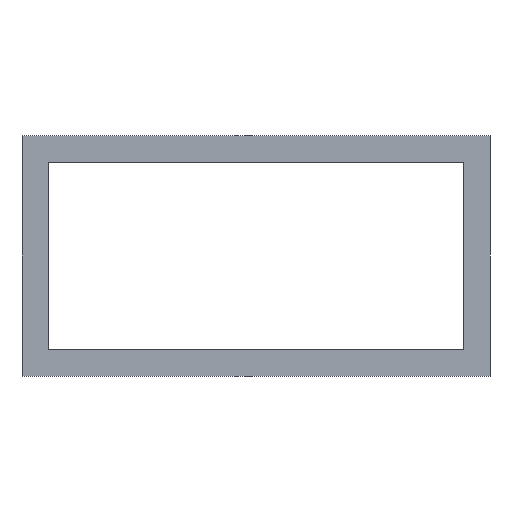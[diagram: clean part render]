
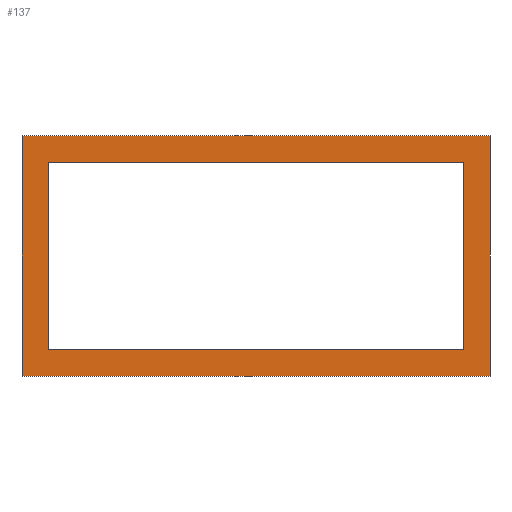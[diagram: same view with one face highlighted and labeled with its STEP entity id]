
A CAD part, front view. The second image highlights one B-rep face of the part: STEP entity #137.
In plain terms, the highlighted planar face has unit normal (0, -1, 0).
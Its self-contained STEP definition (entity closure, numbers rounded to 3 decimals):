
#21 = EDGE_CURVE('',#22,#24,#26,.T.);
#22 = VERTEX_POINT('',#23);
#23 = CARTESIAN_POINT('',(-53.9,-22.125,25.15));
#24 = VERTEX_POINT('',#25);
#25 = CARTESIAN_POINT('',(-53.9,-22.125,80.45));
#26 = SURFACE_CURVE('',#27,(#31,#43),.PCURVE_S1.);
#27 = LINE('',#28,#29);
#28 = CARTESIAN_POINT('',(-53.9,-22.125,25.15));
#29 = VECTOR('',#30,1.);
#30 = DIRECTION('',(0.,0.,1.));
#31 = PCURVE('',#32,#37);
#32 = PLANE('',#33);
#33 = AXIS2_PLACEMENT_3D('',#34,#35,#36);
#34 = CARTESIAN_POINT('',(-53.9,-22.125,25.15));
#35 = DIRECTION('',(1.,0.,0.));
#36 = DIRECTION('',(0.,0.,1.));
#37 = DEFINITIONAL_REPRESENTATION('',(#38),#42);
#38 = LINE('',#39,#40);
#39 = CARTESIAN_POINT('',(0.,0.));
#40 = VECTOR('',#41,1.);
#41 = DIRECTION('',(1.,0.));
#42 = ( GEOMETRIC_REPRESENTATION_CONTEXT(2) 
PARAMETRIC_REPRESENTATION_CONTEXT() REPRESENTATION_CONTEXT('2D SPACE',''
  ) );
#43 = PCURVE('',#44,#49);
#44 = PLANE('',#45);
#45 = AXIS2_PLACEMENT_3D('',#46,#47,#48);
#46 = CARTESIAN_POINT('',(-53.9,-22.125,25.15));
#47 = DIRECTION('',(0.,1.,0.));
#48 = DIRECTION('',(0.,0.,1.));
#49 = DEFINITIONAL_REPRESENTATION('',(#50),#54);
#50 = LINE('',#51,#52);
#51 = CARTESIAN_POINT('',(0.,0.));
#52 = VECTOR('',#53,1.);
#53 = DIRECTION('',(1.,0.));
#54 = ( GEOMETRIC_REPRESENTATION_CONTEXT(2) 
PARAMETRIC_REPRESENTATION_CONTEXT() REPRESENTATION_CONTEXT('2D SPACE',''
  ) );
#72 = PLANE('',#73);
#73 = AXIS2_PLACEMENT_3D('',#74,#75,#76);
#74 = CARTESIAN_POINT('',(-53.9,-22.125,25.15));
#75 = DIRECTION('',(0.,0.,1.));
#76 = DIRECTION('',(1.,0.,0.));
#126 = PLANE('',#127);
#127 = AXIS2_PLACEMENT_3D('',#128,#129,#130);
#128 = CARTESIAN_POINT('',(-53.9,-22.125,80.45));
#129 = DIRECTION('',(0.,0.,1.));
#130 = DIRECTION('',(1.,0.,0.));
#137 = ADVANCED_FACE('',(#138,#213),#44,.F.);
#138 = FACE_BOUND('',#139,.F.);
#139 = EDGE_LOOP('',(#140,#163,#164,#187));
#140 = ORIENTED_EDGE('',*,*,#141,.F.);
#141 = EDGE_CURVE('',#22,#142,#144,.T.);
#142 = VERTEX_POINT('',#143);
#143 = CARTESIAN_POINT('',(53.9,-22.125,25.15));
#144 = SURFACE_CURVE('',#145,(#149,#156),.PCURVE_S1.);
#145 = LINE('',#146,#147);
#146 = CARTESIAN_POINT('',(-53.9,-22.125,25.15));
#147 = VECTOR('',#148,1.);
#148 = DIRECTION('',(1.,0.,0.));
#149 = PCURVE('',#44,#150);
#150 = DEFINITIONAL_REPRESENTATION('',(#151),#155);
#151 = LINE('',#152,#153);
#152 = CARTESIAN_POINT('',(0.,0.));
#153 = VECTOR('',#154,1.);
#154 = DIRECTION('',(0.,1.));
#155 = ( GEOMETRIC_REPRESENTATION_CONTEXT(2) 
PARAMETRIC_REPRESENTATION_CONTEXT() REPRESENTATION_CONTEXT('2D SPACE',''
  ) );
#156 = PCURVE('',#72,#157);
#157 = DEFINITIONAL_REPRESENTATION('',(#158),#162);
#158 = LINE('',#159,#160);
#159 = CARTESIAN_POINT('',(0.,0.));
#160 = VECTOR('',#161,1.);
#161 = DIRECTION('',(1.,0.));
#162 = ( GEOMETRIC_REPRESENTATION_CONTEXT(2) 
PARAMETRIC_REPRESENTATION_CONTEXT() REPRESENTATION_CONTEXT('2D SPACE',''
  ) );
#163 = ORIENTED_EDGE('',*,*,#21,.T.);
#164 = ORIENTED_EDGE('',*,*,#165,.T.);
#165 = EDGE_CURVE('',#24,#166,#168,.T.);
#166 = VERTEX_POINT('',#167);
#167 = CARTESIAN_POINT('',(53.9,-22.125,80.45));
#168 = SURFACE_CURVE('',#169,(#173,#180),.PCURVE_S1.);
#169 = LINE('',#170,#171);
#170 = CARTESIAN_POINT('',(-53.9,-22.125,80.45));
#171 = VECTOR('',#172,1.);
#172 = DIRECTION('',(1.,0.,0.));
#173 = PCURVE('',#44,#174);
#174 = DEFINITIONAL_REPRESENTATION('',(#175),#179);
#175 = LINE('',#176,#177);
#176 = CARTESIAN_POINT('',(55.3,0.));
#177 = VECTOR('',#178,1.);
#178 = DIRECTION('',(0.,1.));
#179 = ( GEOMETRIC_REPRESENTATION_CONTEXT(2) 
PARAMETRIC_REPRESENTATION_CONTEXT() REPRESENTATION_CONTEXT('2D SPACE',''
  ) );
#180 = PCURVE('',#126,#181);
#181 = DEFINITIONAL_REPRESENTATION('',(#182),#186);
#182 = LINE('',#183,#184);
#183 = CARTESIAN_POINT('',(0.,0.));
#184 = VECTOR('',#185,1.);
#185 = DIRECTION('',(1.,0.));
#186 = ( GEOMETRIC_REPRESENTATION_CONTEXT(2) 
PARAMETRIC_REPRESENTATION_CONTEXT() REPRESENTATION_CONTEXT('2D SPACE',''
  ) );
#187 = ORIENTED_EDGE('',*,*,#188,.F.);
#188 = EDGE_CURVE('',#142,#166,#189,.T.);
#189 = SURFACE_CURVE('',#190,(#194,#201),.PCURVE_S1.);
#190 = LINE('',#191,#192);
#191 = CARTESIAN_POINT('',(53.9,-22.125,25.15));
#192 = VECTOR('',#193,1.);
#193 = DIRECTION('',(0.,0.,1.));
#194 = PCURVE('',#44,#195);
#195 = DEFINITIONAL_REPRESENTATION('',(#196),#200);
#196 = LINE('',#197,#198);
#197 = CARTESIAN_POINT('',(0.,107.8));
#198 = VECTOR('',#199,1.);
#199 = DIRECTION('',(1.,0.));
#200 = ( GEOMETRIC_REPRESENTATION_CONTEXT(2) 
PARAMETRIC_REPRESENTATION_CONTEXT() REPRESENTATION_CONTEXT('2D SPACE',''
  ) );
#201 = PCURVE('',#202,#207);
#202 = PLANE('',#203);
#203 = AXIS2_PLACEMENT_3D('',#204,#205,#206);
#204 = CARTESIAN_POINT('',(53.9,-22.125,25.15));
#205 = DIRECTION('',(1.,0.,0.));
#206 = DIRECTION('',(0.,0.,1.));
#207 = DEFINITIONAL_REPRESENTATION('',(#208),#212);
#208 = LINE('',#209,#210);
#209 = CARTESIAN_POINT('',(0.,0.));
#210 = VECTOR('',#211,1.);
#211 = DIRECTION('',(1.,0.));
#212 = ( GEOMETRIC_REPRESENTATION_CONTEXT(2) 
PARAMETRIC_REPRESENTATION_CONTEXT() REPRESENTATION_CONTEXT('2D SPACE',''
  ) );
#213 = FACE_BOUND('',#214,.F.);
#214 = EDGE_LOOP('',(#215,#243,#269,#295));
#215 = ORIENTED_EDGE('',*,*,#216,.F.);
#216 = EDGE_CURVE('',#217,#219,#221,.T.);
#217 = VERTEX_POINT('',#218);
#218 = CARTESIAN_POINT('',(-47.9,-22.125,74.45));
#219 = VERTEX_POINT('',#220);
#220 = CARTESIAN_POINT('',(47.9,-22.125,74.45));
#221 = SURFACE_CURVE('',#222,(#226,#232),.PCURVE_S1.);
#222 = LINE('',#223,#224);
#223 = CARTESIAN_POINT('',(-50.9,-22.125,74.45));
#224 = VECTOR('',#225,1.);
#225 = DIRECTION('',(1.,0.,0.));
#226 = PCURVE('',#44,#227);
#227 = DEFINITIONAL_REPRESENTATION('',(#228),#231);
#228 = B_SPLINE_CURVE_WITH_KNOTS('',1,(#229,#230),.UNSPECIFIED.,.F.,.F.,
  (2,2),(3.,98.8),.PIECEWISE_BEZIER_KNOTS.);
#229 = CARTESIAN_POINT('',(49.3,6.));
#230 = CARTESIAN_POINT('',(49.3,101.8));
#231 = ( GEOMETRIC_REPRESENTATION_CONTEXT(2) 
PARAMETRIC_REPRESENTATION_CONTEXT() REPRESENTATION_CONTEXT('2D SPACE',''
  ) );
#232 = PCURVE('',#233,#238);
#233 = PLANE('',#234);
#234 = AXIS2_PLACEMENT_3D('',#235,#236,#237);
#235 = CARTESIAN_POINT('',(-47.9,-23.125,74.45));
#236 = DIRECTION('',(0.,0.,1.));
#237 = DIRECTION('',(1.,0.,0.));
#238 = DEFINITIONAL_REPRESENTATION('',(#239),#242);
#239 = B_SPLINE_CURVE_WITH_KNOTS('',1,(#240,#241),.UNSPECIFIED.,.F.,.F.,
  (2,2),(3.,98.8),.PIECEWISE_BEZIER_KNOTS.);
#240 = CARTESIAN_POINT('',(0.,1.));
#241 = CARTESIAN_POINT('',(95.8,1.));
#242 = ( GEOMETRIC_REPRESENTATION_CONTEXT(2) 
PARAMETRIC_REPRESENTATION_CONTEXT() REPRESENTATION_CONTEXT('2D SPACE',''
  ) );
#243 = ORIENTED_EDGE('',*,*,#244,.T.);
#244 = EDGE_CURVE('',#217,#245,#247,.T.);
#245 = VERTEX_POINT('',#246);
#246 = CARTESIAN_POINT('',(-47.9,-22.125,31.15));
#247 = SURFACE_CURVE('',#248,(#252,#258),.PCURVE_S1.);
#248 = LINE('',#249,#250);
#249 = CARTESIAN_POINT('',(-47.9,-22.125,28.15));
#250 = VECTOR('',#251,1.);
#251 = DIRECTION('',(0.,0.,-1.));
#252 = PCURVE('',#44,#253);
#253 = DEFINITIONAL_REPRESENTATION('',(#254),#257);
#254 = B_SPLINE_CURVE_WITH_KNOTS('',1,(#255,#256),.UNSPECIFIED.,.F.,.F.,
  (2,2),(-46.3,-3.),.PIECEWISE_BEZIER_KNOTS.);
#255 = CARTESIAN_POINT('',(49.3,6.));
#256 = CARTESIAN_POINT('',(6.,6.));
#257 = ( GEOMETRIC_REPRESENTATION_CONTEXT(2) 
PARAMETRIC_REPRESENTATION_CONTEXT() REPRESENTATION_CONTEXT('2D SPACE',''
  ) );
#258 = PCURVE('',#259,#264);
#259 = PLANE('',#260);
#260 = AXIS2_PLACEMENT_3D('',#261,#262,#263);
#261 = CARTESIAN_POINT('',(-47.9,-23.125,31.15));
#262 = DIRECTION('',(1.,0.,0.));
#263 = DIRECTION('',(0.,0.,1.));
#264 = DEFINITIONAL_REPRESENTATION('',(#265),#268);
#265 = B_SPLINE_CURVE_WITH_KNOTS('',1,(#266,#267),.UNSPECIFIED.,.F.,.F.,
  (2,2),(-46.3,-3.),.PIECEWISE_BEZIER_KNOTS.);
#266 = CARTESIAN_POINT('',(43.3,-1.));
#267 = CARTESIAN_POINT('',(0.,-1.));
#268 = ( GEOMETRIC_REPRESENTATION_CONTEXT(2) 
PARAMETRIC_REPRESENTATION_CONTEXT() REPRESENTATION_CONTEXT('2D SPACE',''
  ) );
#269 = ORIENTED_EDGE('',*,*,#270,.T.);
#270 = EDGE_CURVE('',#245,#271,#273,.T.);
#271 = VERTEX_POINT('',#272);
#272 = CARTESIAN_POINT('',(47.9,-22.125,31.15));
#273 = SURFACE_CURVE('',#274,(#278,#284),.PCURVE_S1.);
#274 = LINE('',#275,#276);
#275 = CARTESIAN_POINT('',(-50.9,-22.125,31.15));
#276 = VECTOR('',#277,1.);
#277 = DIRECTION('',(1.,0.,0.));
#278 = PCURVE('',#44,#279);
#279 = DEFINITIONAL_REPRESENTATION('',(#280),#283);
#280 = B_SPLINE_CURVE_WITH_KNOTS('',1,(#281,#282),.UNSPECIFIED.,.F.,.F.,
  (2,2),(3.,98.8),.PIECEWISE_BEZIER_KNOTS.);
#281 = CARTESIAN_POINT('',(6.,6.));
#282 = CARTESIAN_POINT('',(6.,101.8));
#283 = ( GEOMETRIC_REPRESENTATION_CONTEXT(2) 
PARAMETRIC_REPRESENTATION_CONTEXT() REPRESENTATION_CONTEXT('2D SPACE',''
  ) );
#284 = PCURVE('',#285,#290);
#285 = PLANE('',#286);
#286 = AXIS2_PLACEMENT_3D('',#287,#288,#289);
#287 = CARTESIAN_POINT('',(-47.9,-23.125,31.15));
#288 = DIRECTION('',(0.,0.,1.));
#289 = DIRECTION('',(1.,0.,0.));
#290 = DEFINITIONAL_REPRESENTATION('',(#291),#294);
#291 = B_SPLINE_CURVE_WITH_KNOTS('',1,(#292,#293),.UNSPECIFIED.,.F.,.F.,
  (2,2),(3.,98.8),.PIECEWISE_BEZIER_KNOTS.);
#292 = CARTESIAN_POINT('',(0.,1.));
#293 = CARTESIAN_POINT('',(95.8,1.));
#294 = ( GEOMETRIC_REPRESENTATION_CONTEXT(2) 
PARAMETRIC_REPRESENTATION_CONTEXT() REPRESENTATION_CONTEXT('2D SPACE',''
  ) );
#295 = ORIENTED_EDGE('',*,*,#296,.F.);
#296 = EDGE_CURVE('',#219,#271,#297,.T.);
#297 = SURFACE_CURVE('',#298,(#302,#308),.PCURVE_S1.);
#298 = LINE('',#299,#300);
#299 = CARTESIAN_POINT('',(47.9,-22.125,28.15));
#300 = VECTOR('',#301,1.);
#301 = DIRECTION('',(0.,0.,-1.));
#302 = PCURVE('',#44,#303);
#303 = DEFINITIONAL_REPRESENTATION('',(#304),#307);
#304 = B_SPLINE_CURVE_WITH_KNOTS('',1,(#305,#306),.UNSPECIFIED.,.F.,.F.,
  (2,2),(-46.3,-3.),.PIECEWISE_BEZIER_KNOTS.);
#305 = CARTESIAN_POINT('',(49.3,101.8));
#306 = CARTESIAN_POINT('',(6.,101.8));
#307 = ( GEOMETRIC_REPRESENTATION_CONTEXT(2) 
PARAMETRIC_REPRESENTATION_CONTEXT() REPRESENTATION_CONTEXT('2D SPACE',''
  ) );
#308 = PCURVE('',#309,#314);
#309 = PLANE('',#310);
#310 = AXIS2_PLACEMENT_3D('',#311,#312,#313);
#311 = CARTESIAN_POINT('',(47.9,-23.125,31.15));
#312 = DIRECTION('',(1.,0.,0.));
#313 = DIRECTION('',(0.,0.,1.));
#314 = DEFINITIONAL_REPRESENTATION('',(#315),#318);
#315 = B_SPLINE_CURVE_WITH_KNOTS('',1,(#316,#317),.UNSPECIFIED.,.F.,.F.,
  (2,2),(-46.3,-3.),.PIECEWISE_BEZIER_KNOTS.);
#316 = CARTESIAN_POINT('',(43.3,-1.));
#317 = CARTESIAN_POINT('',(0.,-1.));
#318 = ( GEOMETRIC_REPRESENTATION_CONTEXT(2) 
PARAMETRIC_REPRESENTATION_CONTEXT() REPRESENTATION_CONTEXT('2D SPACE',''
  ) );
